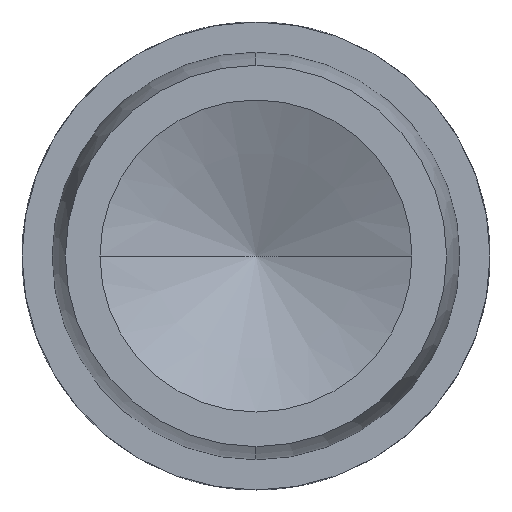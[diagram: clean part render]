
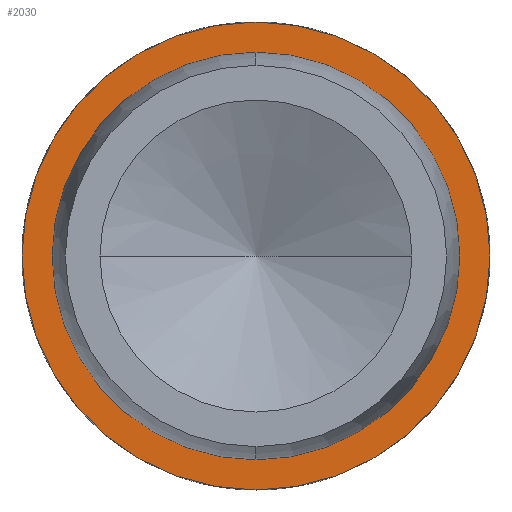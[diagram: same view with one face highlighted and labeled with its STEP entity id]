
A CAD part, left-side view. The second image highlights one B-rep face of the part: STEP entity #2030.
In plain terms, the highlighted planar face has unit normal (-1, 0, 0).
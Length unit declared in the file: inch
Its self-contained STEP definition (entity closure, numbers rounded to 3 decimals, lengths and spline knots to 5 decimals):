
#29 = DIRECTION ( 'NONE',  ( -1., 0., 0. ) ) ;
#110 = CARTESIAN_POINT ( 'NONE',  ( -0.5941, 2.75335, 2.89185 ) ) ;
#417 = FACE_OUTER_BOUND ( 'NONE', #2280, .T. ) ;
#527 = VERTEX_POINT ( 'NONE', #1567 ) ;
#615 = ORIENTED_EDGE ( 'NONE', *, *, #3192, .T. ) ;
#656 = CARTESIAN_POINT ( 'NONE',  ( -0.5941, 2.75335, 3.45435 ) ) ;
#663 = VERTEX_POINT ( 'NONE', #1544 ) ;
#701 = FACE_BOUND ( 'NONE', #1521, .T. ) ;
#746 = CIRCLE ( 'NONE', #2544, 0.5625 ) ;
#875 = ORIENTED_EDGE ( 'NONE', *, *, #3263, .F. ) ;
#889 = DIRECTION ( 'NONE',  ( 0., 0., 1. ) ) ;
#947 = CIRCLE ( 'NONE', #2534, 0.49 ) ;
#1020 = ORIENTED_EDGE ( 'NONE', *, *, #3216, .F. ) ;
#1058 = CIRCLE ( 'NONE', #2565, 0.49 ) ;
#1146 = VERTEX_POINT ( 'NONE', #1267 ) ;
#1240 = DIRECTION ( 'NONE',  ( -1., 0., 0. ) ) ;
#1267 = CARTESIAN_POINT ( 'NONE',  ( -0.5941, 2.75335, 4.01685 ) ) ;
#1307 = DIRECTION ( 'NONE',  ( -1., 0., 0. ) ) ;
#1308 = ORIENTED_EDGE ( 'NONE', *, *, #3251, .T. ) ;
#1521 = EDGE_LOOP ( 'NONE', ( #1020, #875 ) ) ;
#1528 = CARTESIAN_POINT ( 'NONE',  ( -0.5941, 2.75335, 3.45435 ) ) ;
#1544 = CARTESIAN_POINT ( 'NONE',  ( -0.5941, 2.75335, 3.94435 ) ) ;
#1567 = CARTESIAN_POINT ( 'NONE',  ( -0.5941, 2.75335, 2.96435 ) ) ;
#1619 = CIRCLE ( 'NONE', #2578, 0.5625 ) ;
#1765 = DIRECTION ( 'NONE',  ( 0., 0., 1. ) ) ;
#1922 = VERTEX_POINT ( 'NONE', #110 ) ;
#2030 = ADVANCED_FACE ( 'NONE', ( #701, #417 ), #2409, .T. ) ;
#2208 = DIRECTION ( 'NONE',  ( 0., 0., 1. ) ) ;
#2213 = DIRECTION ( 'NONE',  ( -1., 0., 0. ) ) ;
#2216 = CARTESIAN_POINT ( 'NONE',  ( -0.5941, 2.75335, 2.96435 ) ) ;
#2280 = EDGE_LOOP ( 'NONE', ( #615, #1308 ) ) ;
#2333 = DIRECTION ( 'NONE',  ( -1., 0., 0. ) ) ;
#2409 = PLANE ( 'NONE',  #3003 ) ;
#2534 = AXIS2_PLACEMENT_3D ( 'NONE', #2756, #1307, #3080 ) ;
#2544 = AXIS2_PLACEMENT_3D ( 'NONE', #1528, #29, #1765 ) ;
#2565 = AXIS2_PLACEMENT_3D ( 'NONE', #2674, #1240, #2991 ) ;
#2578 = AXIS2_PLACEMENT_3D ( 'NONE', #656, #2333, #889 ) ;
#2674 = CARTESIAN_POINT ( 'NONE',  ( -0.5941, 2.75335, 3.45435 ) ) ;
#2756 = CARTESIAN_POINT ( 'NONE',  ( -0.5941, 2.75335, 3.45435 ) ) ;
#2991 = DIRECTION ( 'NONE',  ( 0., 0., 1. ) ) ;
#3003 = AXIS2_PLACEMENT_3D ( 'NONE', #2216, #2213, #2208 ) ;
#3080 = DIRECTION ( 'NONE',  ( 0., 0., 1. ) ) ;
#3192 = EDGE_CURVE ( 'NONE', #1146, #1922, #1619, .T. ) ;
#3216 = EDGE_CURVE ( 'NONE', #663, #527, #1058, .T. ) ;
#3251 = EDGE_CURVE ( 'NONE', #1922, #1146, #746, .T. ) ;
#3263 = EDGE_CURVE ( 'NONE', #527, #663, #947, .T. ) ;
